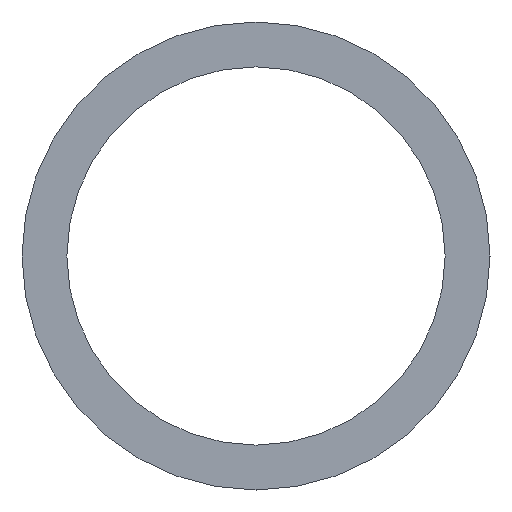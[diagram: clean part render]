
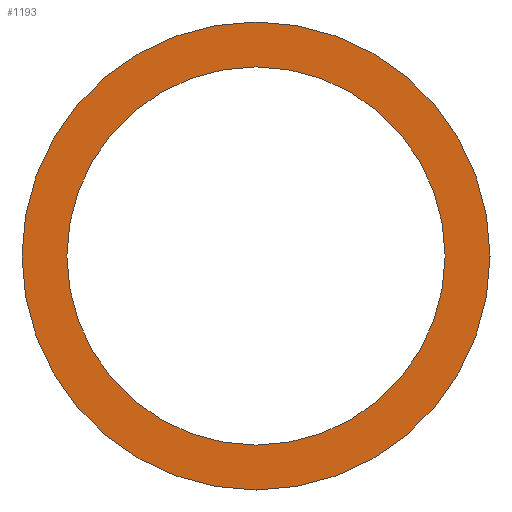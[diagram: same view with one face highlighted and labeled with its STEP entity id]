
A CAD part, front view. The second image highlights one B-rep face of the part: STEP entity #1193.
In plain terms, the highlighted planar face has unit normal (0, -1, 0).
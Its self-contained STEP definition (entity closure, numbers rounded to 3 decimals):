
#29 = EDGE_CURVE ( 'NONE', #1139, #1105, #5198, .T. ) ;
#50 = ORIENTED_EDGE ( 'NONE', *, *, #3823, .T. ) ;
#618 = AXIS2_PLACEMENT_3D ( 'NONE', #1079, #6679, #7974 ) ;
#931 = AXIS2_PLACEMENT_3D ( 'NONE', #2993, #7903, #2503 ) ;
#959 = CARTESIAN_POINT ( 'NONE',  ( 0., -83., 247.5 ) ) ;
#1079 = CARTESIAN_POINT ( 'NONE',  ( 0., -83., 0. ) ) ;
#1105 = VERTEX_POINT ( 'NONE', #4471 ) ;
#1139 = VERTEX_POINT ( 'NONE', #8016 ) ;
#1193 = ADVANCED_FACE ( 'NONE', ( #5805, #8962 ), #2475, .F. ) ;
#1324 = CIRCLE ( 'NONE', #618, 247.5 ) ;
#2277 = CARTESIAN_POINT ( 'NONE',  ( 0., -83., 0. ) ) ;
#2475 = PLANE ( 'NONE',  #3195 ) ;
#2503 = DIRECTION ( 'NONE',  ( 0., 0., -1. ) ) ;
#2734 = ORIENTED_EDGE ( 'NONE', *, *, #29, .F. ) ;
#2811 = DIRECTION ( 'NONE',  ( 0., 0., -1. ) ) ;
#2993 = CARTESIAN_POINT ( 'NONE',  ( 0., -83., 0. ) ) ;
#3178 = VERTEX_POINT ( 'NONE', #8109 ) ;
#3195 = AXIS2_PLACEMENT_3D ( 'NONE', #8157, #4583, #3272 ) ;
#3272 = DIRECTION ( 'NONE',  ( 0., 0., 1. ) ) ;
#3556 = DIRECTION ( 'NONE',  ( 0., -1., 0. ) ) ;
#3823 = EDGE_CURVE ( 'NONE', #3178, #4579, #1324, .T. ) ;
#4471 = CARTESIAN_POINT ( 'NONE',  ( 0., -83., -200. ) ) ;
#4579 = VERTEX_POINT ( 'NONE', #959 ) ;
#4583 = DIRECTION ( 'NONE',  ( 0., 1., 0. ) ) ;
#5197 = ORIENTED_EDGE ( 'NONE', *, *, #7148, .T. ) ;
#5198 = CIRCLE ( 'NONE', #6183, 200. ) ;
#5551 = CIRCLE ( 'NONE', #931, 247.5 ) ;
#5689 = ORIENTED_EDGE ( 'NONE', *, *, #8217, .F. ) ;
#5805 = FACE_BOUND ( 'NONE', #6228, .T. ) ;
#6183 = AXIS2_PLACEMENT_3D ( 'NONE', #2277, #8589, #7221 ) ;
#6228 = EDGE_LOOP ( 'NONE', ( #5689, #2734 ) ) ;
#6588 = EDGE_LOOP ( 'NONE', ( #50, #5197 ) ) ;
#6601 = AXIS2_PLACEMENT_3D ( 'NONE', #7703, #3556, #2811 ) ;
#6679 = DIRECTION ( 'NONE',  ( 0., -1., 0. ) ) ;
#7148 = EDGE_CURVE ( 'NONE', #4579, #3178, #5551, .T. ) ;
#7221 = DIRECTION ( 'NONE',  ( 0., 0., -1. ) ) ;
#7703 = CARTESIAN_POINT ( 'NONE',  ( 0., -83., 0. ) ) ;
#7903 = DIRECTION ( 'NONE',  ( 0., -1., 0. ) ) ;
#7974 = DIRECTION ( 'NONE',  ( 0., 0., -1. ) ) ;
#8016 = CARTESIAN_POINT ( 'NONE',  ( 0., -83., 200. ) ) ;
#8109 = CARTESIAN_POINT ( 'NONE',  ( 0., -83., -247.5 ) ) ;
#8157 = CARTESIAN_POINT ( 'NONE',  ( 0., -83., 200. ) ) ;
#8217 = EDGE_CURVE ( 'NONE', #1105, #1139, #8826, .T. ) ;
#8589 = DIRECTION ( 'NONE',  ( 0., -1., 0. ) ) ;
#8826 = CIRCLE ( 'NONE', #6601, 200. ) ;
#8962 = FACE_OUTER_BOUND ( 'NONE', #6588, .T. ) ;
